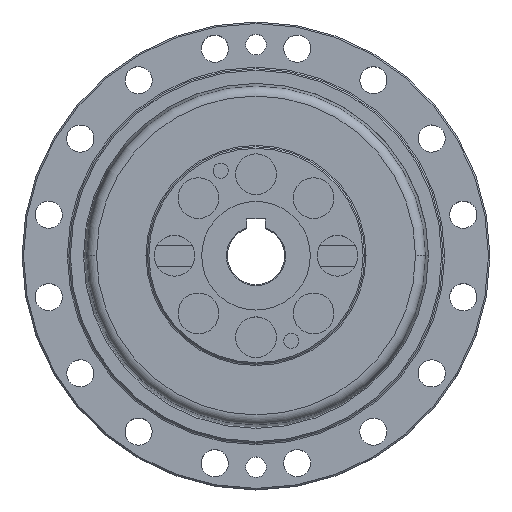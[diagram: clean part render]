
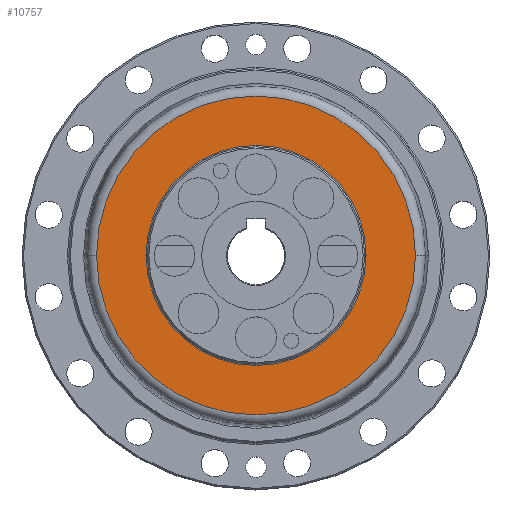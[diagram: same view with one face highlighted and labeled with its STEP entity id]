
A CAD part, top view. The second image highlights one B-rep face of the part: STEP entity #10757.
In plain terms, the highlighted planar face has unit normal (0, 0, 1).
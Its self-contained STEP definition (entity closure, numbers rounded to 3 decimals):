
#234 = ORIENTED_EDGE ( 'NONE', *, *, #3410, .T. ) ;
#619 = DIRECTION ( 'NONE',  ( -1., 0., 0. ) ) ;
#1617 = CARTESIAN_POINT ( 'NONE',  ( 0., 52.916, 29.177 ) ) ;
#1801 = VERTEX_POINT ( 'NONE', #11905 ) ;
#2086 = ORIENTED_EDGE ( 'NONE', *, *, #12795, .F. ) ;
#2583 = CARTESIAN_POINT ( 'NONE',  ( 0., 0.091, 29.177 ) ) ;
#2678 = EDGE_LOOP ( 'NONE', ( #4540, #2086 ) ) ;
#2703 = EDGE_LOOP ( 'NONE', ( #234, #7684 ) ) ;
#2838 = CARTESIAN_POINT ( 'NONE',  ( -36.45, 0.091, 29.177 ) ) ;
#3208 = FACE_OUTER_BOUND ( 'NONE', #2703, .T. ) ;
#3410 = EDGE_CURVE ( 'NONE', #1801, #3757, #3885, .T. ) ;
#3421 = CARTESIAN_POINT ( 'NONE',  ( -52.825, 0.091, 29.177 ) ) ;
#3452 = DIRECTION ( 'NONE',  ( 1., 0., 0. ) ) ;
#3538 = DIRECTION ( 'NONE',  ( 0., 0., 1. ) ) ;
#3549 = CARTESIAN_POINT ( 'NONE',  ( 0., 0.091, 29.177 ) ) ;
#3592 = DIRECTION ( 'NONE',  ( 1., 0., 0. ) ) ;
#3683 = DIRECTION ( 'NONE',  ( 1., 0., 0. ) ) ;
#3757 = VERTEX_POINT ( 'NONE', #3421 ) ;
#3857 = FACE_BOUND ( 'NONE', #2678, .T. ) ;
#3885 = CIRCLE ( 'NONE', #5919, 52.825 ) ;
#4297 = VERTEX_POINT ( 'NONE', #6256 ) ;
#4363 = CIRCLE ( 'NONE', #6262, 36.45 ) ;
#4540 = ORIENTED_EDGE ( 'NONE', *, *, #6464, .F. ) ;
#5726 = CARTESIAN_POINT ( 'NONE',  ( 0., 0.091, 29.177 ) ) ;
#5919 = AXIS2_PLACEMENT_3D ( 'NONE', #7140, #9286, #3452 ) ;
#6256 = CARTESIAN_POINT ( 'NONE',  ( 36.45, 0.091, 29.177 ) ) ;
#6262 = AXIS2_PLACEMENT_3D ( 'NONE', #5726, #12629, #6772 ) ;
#6464 = EDGE_CURVE ( 'NONE', #4297, #10857, #9221, .T. ) ;
#6627 = DIRECTION ( 'NONE',  ( 0., 0., -1. ) ) ;
#6772 = DIRECTION ( 'NONE',  ( 1., 0., 0. ) ) ;
#7140 = CARTESIAN_POINT ( 'NONE',  ( 0., 0.091, 29.177 ) ) ;
#7684 = ORIENTED_EDGE ( 'NONE', *, *, #12711, .T. ) ;
#8744 = AXIS2_PLACEMENT_3D ( 'NONE', #1617, #6627, #619 ) ;
#9221 = CIRCLE ( 'NONE', #12829, 36.45 ) ;
#9286 = DIRECTION ( 'NONE',  ( 0., 0., 1. ) ) ;
#9524 = DIRECTION ( 'NONE',  ( 0., 0., 1. ) ) ;
#10543 = CIRCLE ( 'NONE', #10566, 52.825 ) ;
#10566 = AXIS2_PLACEMENT_3D ( 'NONE', #2583, #9524, #3592 ) ;
#10757 = ADVANCED_FACE ( 'NONE', ( #3857, #3208 ), #12456, .F. ) ;
#10857 = VERTEX_POINT ( 'NONE', #2838 ) ;
#11905 = CARTESIAN_POINT ( 'NONE',  ( 52.825, 0.091, 29.177 ) ) ;
#12456 = PLANE ( 'NONE',  #8744 ) ;
#12629 = DIRECTION ( 'NONE',  ( 0., 0., 1. ) ) ;
#12711 = EDGE_CURVE ( 'NONE', #3757, #1801, #10543, .T. ) ;
#12795 = EDGE_CURVE ( 'NONE', #10857, #4297, #4363, .T. ) ;
#12829 = AXIS2_PLACEMENT_3D ( 'NONE', #3549, #3538, #3683 ) ;
